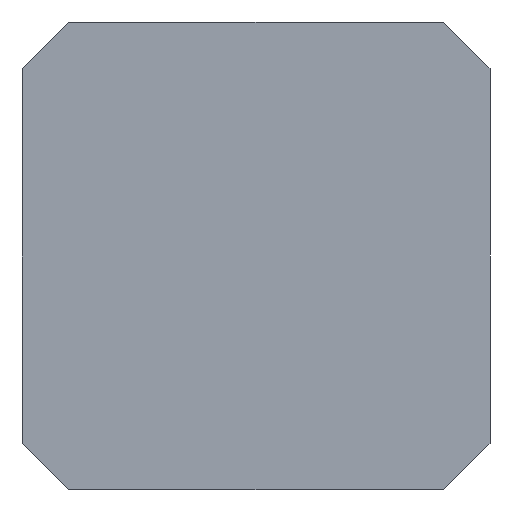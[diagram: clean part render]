
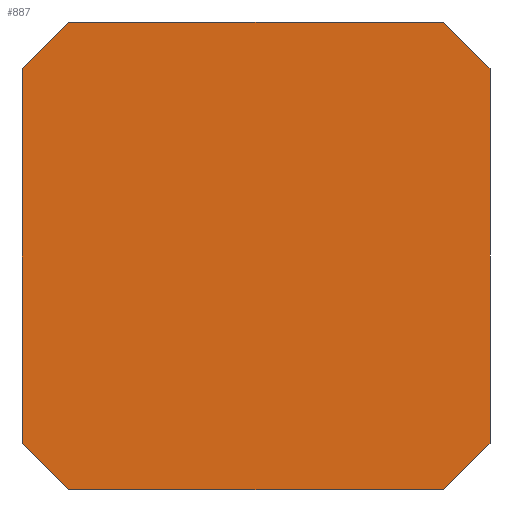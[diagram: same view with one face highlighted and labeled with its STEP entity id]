
A CAD part, front view. The second image highlights one B-rep face of the part: STEP entity #887.
In plain terms, the highlighted planar face has unit normal (0, -1, 0).
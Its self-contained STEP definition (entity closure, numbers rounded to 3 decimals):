
#8 = CARTESIAN_POINT ( 'NONE',  ( 0., -50., -42. ) ) ;
#10 = LINE ( 'NONE', #344, #184 ) ;
#43 = DIRECTION ( 'NONE',  ( -0.707, 0., -0.707 ) ) ;
#78 = CARTESIAN_POINT ( 'NONE',  ( 0., -50., -4.2 ) ) ;
#122 = DIRECTION ( 'NONE',  ( -1., 0., 0. ) ) ;
#133 = DIRECTION ( 'NONE',  ( 0., 0., 1. ) ) ;
#137 = ORIENTED_EDGE ( 'NONE', *, *, #905, .F. ) ;
#148 = DIRECTION ( 'NONE',  ( 0., 0., -1. ) ) ;
#177 = CARTESIAN_POINT ( 'NONE',  ( 0., -50., 0. ) ) ;
#184 = VECTOR ( 'NONE', #341, 1000. ) ;
#249 = CARTESIAN_POINT ( 'NONE',  ( 0., -50., 0. ) ) ;
#269 = DIRECTION ( 'NONE',  ( 0., -1., 0. ) ) ;
#289 = EDGE_CURVE ( 'NONE', #327, #448, #1240, .T. ) ;
#304 = CARTESIAN_POINT ( 'NONE',  ( 42., -50., -4.2 ) ) ;
#319 = ORIENTED_EDGE ( 'NONE', *, *, #398, .T. ) ;
#327 = VERTEX_POINT ( 'NONE', #304 ) ;
#341 = DIRECTION ( 'NONE',  ( 0.707, 0., 0.707 ) ) ;
#344 = CARTESIAN_POINT ( 'NONE',  ( 37.8, -50., -42. ) ) ;
#347 = CARTESIAN_POINT ( 'NONE',  ( 0., -50., 0. ) ) ;
#350 = CARTESIAN_POINT ( 'NONE',  ( 37.8, -50., 0. ) ) ;
#354 = EDGE_CURVE ( 'NONE', #1314, #448, #10, .T. ) ;
#372 = DIRECTION ( 'NONE',  ( 1., 0., 0. ) ) ;
#394 = VERTEX_POINT ( 'NONE', #350 ) ;
#398 = EDGE_CURVE ( 'NONE', #734, #1146, #849, .T. ) ;
#429 = LINE ( 'NONE', #249, #553 ) ;
#448 = VERTEX_POINT ( 'NONE', #625 ) ;
#505 = ORIENTED_EDGE ( 'NONE', *, *, #706, .T. ) ;
#524 = ORIENTED_EDGE ( 'NONE', *, *, #1406, .T. ) ;
#525 = LINE ( 'NONE', #698, #1203 ) ;
#527 = VERTEX_POINT ( 'NONE', #78 ) ;
#536 = DIRECTION ( 'NONE',  ( 0.707, 0., -0.707 ) ) ;
#553 = VECTOR ( 'NONE', #372, 1000. ) ;
#596 = CARTESIAN_POINT ( 'NONE',  ( 4.2, -50., -42. ) ) ;
#625 = CARTESIAN_POINT ( 'NONE',  ( 42., -50., -37.8 ) ) ;
#635 = PLANE ( 'NONE',  #1078 ) ;
#642 = CARTESIAN_POINT ( 'NONE',  ( 4.2, -50., -42. ) ) ;
#669 = EDGE_CURVE ( 'NONE', #1400, #394, #429, .T. ) ;
#686 = CARTESIAN_POINT ( 'NONE',  ( 4.2, -50., 0. ) ) ;
#688 = VECTOR ( 'NONE', #536, 1000. ) ;
#698 = CARTESIAN_POINT ( 'NONE',  ( 37.8, -50., 0. ) ) ;
#706 = EDGE_CURVE ( 'NONE', #327, #394, #525, .T. ) ;
#734 = VERTEX_POINT ( 'NONE', #1306 ) ;
#738 = DIRECTION ( 'NONE',  ( -0.707, 0., 0.707 ) ) ;
#849 = LINE ( 'NONE', #642, #688 ) ;
#887 = ADVANCED_FACE ( 'NONE', ( #1390 ), #635, .T. ) ;
#905 = EDGE_CURVE ( 'NONE', #734, #527, #1120, .T. ) ;
#921 = EDGE_CURVE ( 'NONE', #1314, #1146, #1073, .T. ) ;
#1057 = VECTOR ( 'NONE', #122, 1000. ) ;
#1073 = LINE ( 'NONE', #8, #1057 ) ;
#1078 = AXIS2_PLACEMENT_3D ( 'NONE', #177, #269, #148 ) ;
#1082 = ORIENTED_EDGE ( 'NONE', *, *, #289, .F. ) ;
#1109 = VECTOR ( 'NONE', #133, 1000. ) ;
#1120 = LINE ( 'NONE', #347, #1109 ) ;
#1126 = CARTESIAN_POINT ( 'NONE',  ( 42., -50., 0. ) ) ;
#1134 = ORIENTED_EDGE ( 'NONE', *, *, #354, .T. ) ;
#1146 = VERTEX_POINT ( 'NONE', #596 ) ;
#1158 = DIRECTION ( 'NONE',  ( 0., 0., -1. ) ) ;
#1175 = ORIENTED_EDGE ( 'NONE', *, *, #669, .F. ) ;
#1203 = VECTOR ( 'NONE', #738, 1000. ) ;
#1218 = CARTESIAN_POINT ( 'NONE',  ( 37.8, -50., -42. ) ) ;
#1240 = LINE ( 'NONE', #1126, #1272 ) ;
#1248 = ORIENTED_EDGE ( 'NONE', *, *, #921, .F. ) ;
#1272 = VECTOR ( 'NONE', #1158, 1000. ) ;
#1273 = CARTESIAN_POINT ( 'NONE',  ( 0., -50., -4.2 ) ) ;
#1306 = CARTESIAN_POINT ( 'NONE',  ( 0., -50., -37.8 ) ) ;
#1314 = VERTEX_POINT ( 'NONE', #1218 ) ;
#1334 = VECTOR ( 'NONE', #43, 1000. ) ;
#1342 = EDGE_LOOP ( 'NONE', ( #1134, #1082, #505, #1175, #524, #137, #319, #1248 ) ) ;
#1352 = LINE ( 'NONE', #1273, #1334 ) ;
#1390 = FACE_OUTER_BOUND ( 'NONE', #1342, .T. ) ;
#1400 = VERTEX_POINT ( 'NONE', #686 ) ;
#1406 = EDGE_CURVE ( 'NONE', #1400, #527, #1352, .T. ) ;
